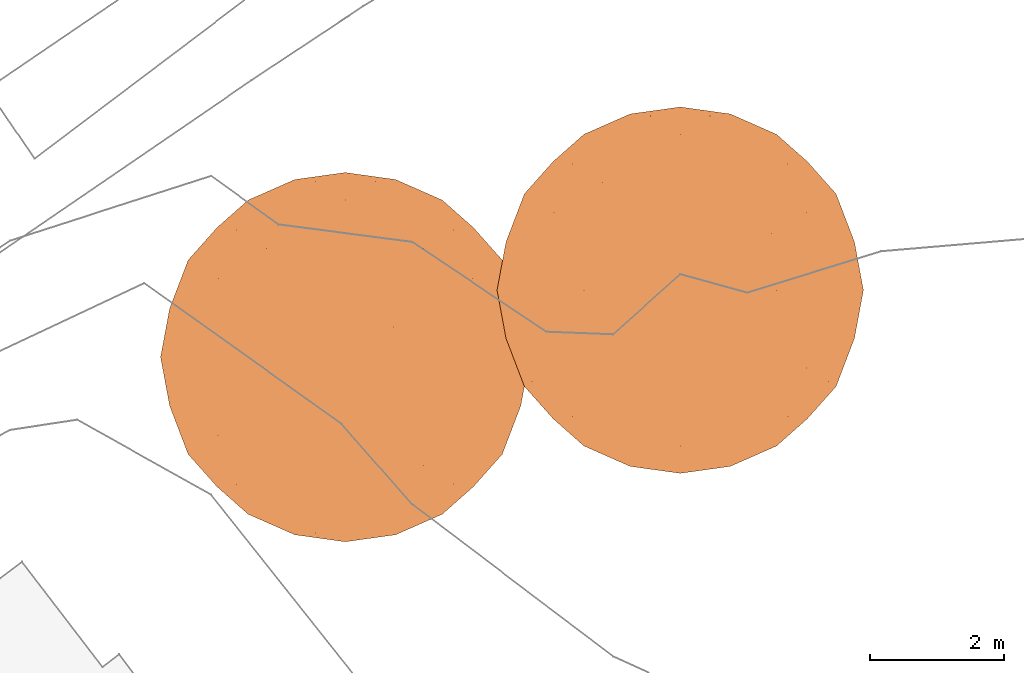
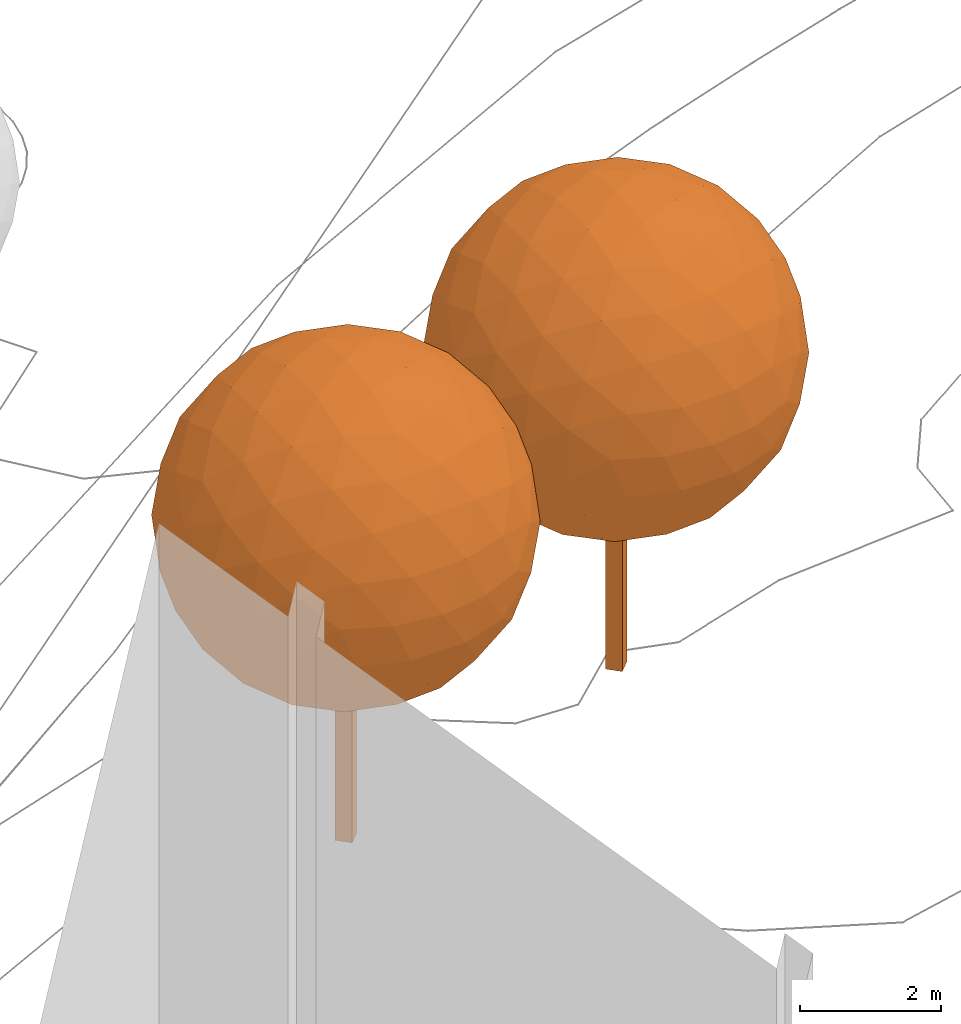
# Not in any storey, part 381 of 494: 2 proxies.
"""IFC2X3 model written with IfcOpenShell, lengths in metres."""

from ifc_helpers import new_model, si_unit, frame, origin_with_axes, place, context, subcontext, project, faceted_brep, element, save


model = new_model("IFC2X3")

# Units and contexts
model_context = context("Model", 3, precision=1e-05, world=origin_with_axes())
body_context = subcontext(model_context, "Body", "Model", "MODEL_VIEW")
ifc_project = project(units=[si_unit("AREAUNIT", "SQUARE_METRE"), si_unit("LENGTHUNIT", "METRE")], contexts=[model_context])

# Proxies
proxy_1_placement = place(None, frame((391.6777320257, 220.1707364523, 507.3218987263), z_axis=(0.0, 0.0, 1.0), x_axis=(1.0, 0.0, 0.0)))
element("IfcBuildingElementProxy", 1, at=proxy_1_placement, Name="Tree TR1 CD55", ObjectType="NOTDEFINED", context=body_context, shape_type="Brep", body=[
    faceted_brep([(0.0, 0.1754369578, 0.0), (0.1754369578, 0.0, 0.0), (0.0, -0.1754369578, 0.0), (-0.1754369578, 0.0, 0.0), (0.0, -0.1754369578, 5.5115145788), (0.1754369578, 0.0, 5.5115145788), (0.0, 0.1754369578, 5.5115145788), (-0.1754369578, 0.0, 5.5115145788)], [[[0, 1, 2]], [[2, 3, 0]], [[4, 5, 6]], [[6, 7, 4]], [[4, 7, 2]], [[2, 7, 3]], [[7, 6, 3]], [[3, 6, 0]], [[5, 4, 1]], [[1, 4, 2]], [[6, 5, 0]], [[0, 5, 1]]]),
    faceted_brep([(-1.4487873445, 2.3441871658, 5.5115145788), (-1.9118906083, 1.9346696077, 5.9541499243), (-1.1956915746, 2.3773049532, 6.2277136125), (-2.2294544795, 1.3778786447, 6.3630904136), (-1.6197934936, 1.8964872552, 6.6836081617), (-0.8515758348, 2.2294544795, 6.8893932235), (-2.3773049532, 0.7161990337, 6.7072061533), (-1.8964872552, 1.1720935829, 7.1313080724), (-2.3441871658, 0.0, 6.9603019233), (-1.9346696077, 0.4426353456, 7.4234051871), (-1.3778786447, 0.8515758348, 7.7409690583), (-1.1720935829, 1.6197934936, 7.408001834), (-0.4426353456, 1.9118906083, 7.4461841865), (-0.7161990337, 1.1956915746, 7.888819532), (0.0, 1.4487873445, 7.8557017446), (-0.753056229, 2.6508686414, 5.5115145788), (-0.4476999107, 2.6208809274, 6.235908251), (0.0, 2.7557572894, 5.5115145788), (0.0, 2.3441871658, 6.9603019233), (0.4426353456, 1.9118906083, 7.4461841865), (0.8515758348, 2.2294544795, 6.8893932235), (0.4476999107, 2.6208809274, 6.235908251), (0.753056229, 2.6508686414, 5.5115145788), (1.1956915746, 2.3773049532, 6.2277136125), (1.4487873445, 2.3441871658, 5.5115145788), (-1.1956915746, 2.3773049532, 4.7953155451), (-0.4476999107, 2.6208809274, 4.7871209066), (-0.8515758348, 2.2294544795, 4.1336359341), (0.4476999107, 2.6208809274, 4.7871209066), (1.1956915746, 2.3773049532, 4.7953155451), (0.8515758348, 2.2294544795, 4.1336359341), (0.0, 2.3441871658, 4.0627272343), (-0.4426353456, 1.9118906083, 3.5768449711), (0.4426353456, 1.9118906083, 3.5768449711), (0.0, 1.4487873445, 3.1673274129), (-1.9118906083, 1.9346696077, 5.0688792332), (-1.6197934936, 1.8964872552, 4.3394209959), (-2.2294544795, 1.3778786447, 4.659938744), (-1.1720935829, 1.6197934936, 3.6150273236), (-0.7161990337, 1.1956915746, 3.1342096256), (-1.3778786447, 0.8515758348, 3.2820600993), (-1.8964872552, 1.1720935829, 3.8917210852), (-2.3773049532, 0.7161990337, 4.3158230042), (-1.9346696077, 0.4426353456, 3.5996239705), (-2.3441871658, 0.0, 4.0627272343), (-2.3441871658, 1.4487873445, 5.5115145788), (-2.6208809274, 0.7243936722, 5.0638146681), (-2.6508686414, 0.0, 4.7584583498), (-2.7557572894, 0.0, 5.5115145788), (-2.6208809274, 0.7243936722, 5.9592144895), (-2.6508686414, 0.0, 6.2645708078), (1.9118906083, 1.9346696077, 5.9541499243), (1.6197934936, 1.8964872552, 6.6836081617), (2.2294544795, 1.3778786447, 6.3630904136), (1.1720935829, 1.6197934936, 7.408001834), (0.7161990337, 1.1956915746, 7.888819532), (1.3778786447, 0.8515758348, 7.7409690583), (1.8964872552, 1.1720935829, 7.1313080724), (2.3773049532, 0.7161990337, 6.7072061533), (1.9346696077, 0.4426353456, 7.4234051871), (2.3441871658, 0.0, 6.9603019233), (0.0, 0.753056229, 8.1623832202), (-0.7243936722, 0.4476999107, 8.1323955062), (0.0, 0.0, 8.2672718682), (-1.4487873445, 0.0, 7.8557017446), (-1.9346696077, -0.4426353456, 7.4234051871), (-1.3778786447, -0.8515758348, 7.7409690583), (-0.7243936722, -0.4476999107, 8.1323955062), (0.0, -0.753056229, 8.1623832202), (-0.7161990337, -1.1956915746, 7.888819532), (0.0, -1.4487873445, 7.8557017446), (-2.3773049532, -0.7161990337, 6.7072061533), (-2.6208809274, -0.7243936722, 5.9592144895), (-2.2294544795, -1.3778786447, 6.3630904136), (-2.6208809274, -0.7243936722, 5.0638146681), (-2.3773049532, -0.7161990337, 4.3158230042), (-2.2294544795, -1.3778786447, 4.659938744), (-2.3441871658, -1.4487873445, 5.5115145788), (-1.9118906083, -1.9346696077, 5.9541499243), (-1.9118906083, -1.9346696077, 5.0688792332), (-1.4487873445, -2.3441871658, 5.5115145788), (-1.9346696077, -0.4426353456, 3.5996239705), (-1.4487873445, 0.0, 3.1673274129), (-1.3778786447, -0.8515758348, 3.2820600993), (-0.7243936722, 0.4476999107, 2.8906336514), (0.0, 0.753056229, 2.8606459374), (0.0, 0.0, 2.7557572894), (-0.7243936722, -0.4476999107, 2.8906336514), (-0.7161990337, -1.1956915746, 3.1342096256), (0.0, -0.753056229, 2.8606459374), (0.0, -1.4487873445, 3.1673274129), (0.7161990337, 1.1956915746, 3.1342096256), (1.1720935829, 1.6197934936, 3.6150273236), (1.3778786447, 0.8515758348, 3.2820600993), (1.6197934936, 1.8964872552, 4.3394209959), (1.9118906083, 1.9346696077, 5.0688792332), (2.2294544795, 1.3778786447, 4.659938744), (1.8964872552, 1.1720935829, 3.8917210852), (1.9346696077, 0.4426353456, 3.5996239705), (2.3773049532, 0.7161990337, 4.3158230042), (2.3441871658, 0.0, 4.0627272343), (1.4487873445, -2.3441871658, 5.5115145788), (1.9118906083, -1.9346696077, 5.9541499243), (1.1956915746, -2.3773049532, 6.2277136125), (2.2294544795, -1.3778786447, 6.3630904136), (1.6197934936, -1.8964872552, 6.6836081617), (0.8515758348, -2.2294544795, 6.8893932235), (2.3773049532, -0.7161990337, 6.7072061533), (1.8964872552, -1.1720935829, 7.1313080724), (1.9346696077, -0.4426353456, 7.4234051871), (1.3778786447, -0.8515758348, 7.7409690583), (1.1720935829, -1.6197934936, 7.408001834), (0.4426353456, -1.9118906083, 7.4461841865), (0.7161990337, -1.1956915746, 7.888819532), (0.753056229, -2.6508686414, 5.5115145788), (0.4476999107, -2.6208809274, 6.235908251), (0.0, -2.7557572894, 5.5115145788), (0.0, -2.3441871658, 6.9603019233), (-0.4426353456, -1.9118906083, 7.4461841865), (-0.8515758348, -2.2294544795, 6.8893932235), (-0.4476999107, -2.6208809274, 6.235908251), (-0.753056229, -2.6508686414, 5.5115145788), (-1.1956915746, -2.3773049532, 6.2277136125), (1.1956915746, -2.3773049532, 4.7953155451), (0.4476999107, -2.6208809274, 4.7871209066), (0.8515758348, -2.2294544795, 4.1336359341), (-0.4476999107, -2.6208809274, 4.7871209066), (-1.1956915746, -2.3773049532, 4.7953155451), (-0.8515758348, -2.2294544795, 4.1336359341), (0.0, -2.3441871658, 4.0627272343), (0.4426353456, -1.9118906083, 3.5768449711), (-0.4426353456, -1.9118906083, 3.5768449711), (1.9118906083, -1.9346696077, 5.0688792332), (1.6197934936, -1.8964872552, 4.3394209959), (2.2294544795, -1.3778786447, 4.659938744), (1.1720935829, -1.6197934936, 3.6150273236), (0.7161990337, -1.1956915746, 3.1342096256), (1.3778786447, -0.8515758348, 3.2820600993), (1.8964872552, -1.1720935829, 3.8917210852), (2.3773049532, -0.7161990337, 4.3158230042), (1.9346696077, -0.4426353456, 3.5996239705), (2.3441871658, -1.4487873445, 5.5115145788), (2.6208809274, -0.7243936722, 5.0638146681), (2.6508686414, 0.0, 4.7584583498), (2.7557572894, 0.0, 5.5115145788), (2.6208809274, -0.7243936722, 5.9592144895), (2.6508686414, 0.0, 6.2645708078), (0.7243936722, -0.4476999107, 8.1323955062), (1.4487873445, 0.0, 7.8557017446), (0.7243936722, 0.4476999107, 8.1323955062), (-1.6197934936, -1.8964872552, 6.6836081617), (-1.1720935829, -1.6197934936, 7.408001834), (-1.8964872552, -1.1720935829, 7.1313080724), (-1.1720935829, -1.6197934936, 3.6150273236), (-1.6197934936, -1.8964872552, 4.3394209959), (-1.8964872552, -1.1720935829, 3.8917210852), (1.4487873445, 0.0, 3.1673274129), (0.7243936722, -0.4476999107, 2.8906336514), (0.7243936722, 0.4476999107, 2.8906336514), (2.6208809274, 0.7243936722, 5.9592144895), (2.6208809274, 0.7243936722, 5.0638146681), (2.3441871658, 1.4487873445, 5.5115145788)], [[[0, 1, 2]], [[1, 3, 4]], [[2, 4, 5]], [[1, 4, 2]], [[3, 6, 7]], [[6, 8, 9]], [[7, 9, 10]], [[6, 9, 7]], [[5, 11, 12]], [[11, 10, 13]], [[12, 13, 14]], [[11, 13, 12]], [[3, 7, 4]], [[7, 10, 11]], [[4, 11, 5]], [[7, 11, 4]], [[0, 2, 15]], [[2, 5, 16]], [[15, 16, 17]], [[2, 16, 15]], [[5, 12, 18]], [[12, 14, 19]], [[18, 19, 20]], [[12, 19, 18]], [[17, 21, 22]], [[21, 20, 23]], [[22, 23, 24]], [[21, 23, 22]], [[5, 18, 16]], [[18, 20, 21]], [[16, 21, 17]], [[18, 21, 16]], [[0, 15, 25]], [[15, 17, 26]], [[25, 26, 27]], [[15, 26, 25]], [[17, 22, 28]], [[22, 24, 29]], [[28, 29, 30]], [[22, 29, 28]], [[27, 31, 32]], [[31, 30, 33]], [[32, 33, 34]], [[31, 33, 32]], [[17, 28, 26]], [[28, 30, 31]], [[26, 31, 27]], [[28, 31, 26]], [[0, 25, 35]], [[25, 27, 36]], [[35, 36, 37]], [[25, 36, 35]], [[27, 32, 38]], [[32, 34, 39]], [[38, 39, 40]], [[32, 39, 38]], [[37, 41, 42]], [[41, 40, 43]], [[42, 43, 44]], [[41, 43, 42]], [[27, 38, 36]], [[38, 40, 41]], [[36, 41, 37]], [[38, 41, 36]], [[0, 35, 1]], [[35, 37, 45]], [[1, 45, 3]], [[35, 45, 1]], [[37, 42, 46]], [[42, 44, 47]], [[46, 47, 48]], [[42, 47, 46]], [[3, 49, 6]], [[49, 48, 50]], [[6, 50, 8]], [[49, 50, 6]], [[37, 46, 45]], [[46, 48, 49]], [[45, 49, 3]], [[46, 49, 45]], [[24, 23, 51]], [[23, 20, 52]], [[51, 52, 53]], [[23, 52, 51]], [[20, 19, 54]], [[19, 14, 55]], [[54, 55, 56]], [[19, 55, 54]], [[53, 57, 58]], [[57, 56, 59]], [[58, 59, 60]], [[57, 59, 58]], [[20, 54, 52]], [[54, 56, 57]], [[52, 57, 53]], [[54, 57, 52]], [[14, 13, 61]], [[13, 10, 62]], [[61, 62, 63]], [[13, 62, 61]], [[10, 9, 64]], [[9, 8, 65]], [[64, 65, 66]], [[9, 65, 64]], [[63, 67, 68]], [[67, 66, 69]], [[68, 69, 70]], [[67, 69, 68]], [[10, 64, 62]], [[64, 66, 67]], [[62, 67, 63]], [[64, 67, 62]], [[8, 50, 71]], [[50, 48, 72]], [[71, 72, 73]], [[50, 72, 71]], [[48, 47, 74]], [[47, 44, 75]], [[74, 75, 76]], [[47, 75, 74]], [[73, 77, 78]], [[77, 76, 79]], [[78, 79, 80]], [[77, 79, 78]], [[48, 74, 72]], [[74, 76, 77]], [[72, 77, 73]], [[74, 77, 72]], [[44, 43, 81]], [[43, 40, 82]], [[81, 82, 83]], [[43, 82, 81]], [[40, 39, 84]], [[39, 34, 85]], [[84, 85, 86]], [[39, 85, 84]], [[83, 87, 88]], [[87, 86, 89]], [[88, 89, 90]], [[87, 89, 88]], [[40, 84, 82]], [[84, 86, 87]], [[82, 87, 83]], [[84, 87, 82]], [[34, 33, 91]], [[33, 30, 92]], [[91, 92, 93]], [[33, 92, 91]], [[30, 29, 94]], [[29, 24, 95]], [[94, 95, 96]], [[29, 95, 94]], [[93, 97, 98]], [[97, 96, 99]], [[98, 99, 100]], [[97, 99, 98]], [[30, 94, 92]], [[94, 96, 97]], [[92, 97, 93]], [[94, 97, 92]], [[101, 102, 103]], [[102, 104, 105]], [[103, 105, 106]], [[102, 105, 103]], [[104, 107, 108]], [[107, 60, 109]], [[108, 109, 110]], [[107, 109, 108]], [[106, 111, 112]], [[111, 110, 113]], [[112, 113, 70]], [[111, 113, 112]], [[104, 108, 105]], [[108, 110, 111]], [[105, 111, 106]], [[108, 111, 105]], [[101, 103, 114]], [[103, 106, 115]], [[114, 115, 116]], [[103, 115, 114]], [[106, 112, 117]], [[112, 70, 118]], [[117, 118, 119]], [[112, 118, 117]], [[116, 120, 121]], [[120, 119, 122]], [[121, 122, 80]], [[120, 122, 121]], [[106, 117, 115]], [[117, 119, 120]], [[115, 120, 116]], [[117, 120, 115]], [[101, 114, 123]], [[114, 116, 124]], [[123, 124, 125]], [[114, 124, 123]], [[116, 121, 126]], [[121, 80, 127]], [[126, 127, 128]], [[121, 127, 126]], [[125, 129, 130]], [[129, 128, 131]], [[130, 131, 90]], [[129, 131, 130]], [[116, 126, 124]], [[126, 128, 129]], [[124, 129, 125]], [[126, 129, 124]], [[101, 123, 132]], [[123, 125, 133]], [[132, 133, 134]], [[123, 133, 132]], [[125, 130, 135]], [[130, 90, 136]], [[135, 136, 137]], [[130, 136, 135]], [[134, 138, 139]], [[138, 137, 140]], [[139, 140, 100]], [[138, 140, 139]], [[125, 135, 133]], [[135, 137, 138]], [[133, 138, 134]], [[135, 138, 133]], [[101, 132, 102]], [[132, 134, 141]], [[102, 141, 104]], [[132, 141, 102]], [[134, 139, 142]], [[139, 100, 143]], [[142, 143, 144]], [[139, 143, 142]], [[104, 145, 107]], [[145, 144, 146]], [[107, 146, 60]], [[145, 146, 107]], [[134, 142, 141]], [[142, 144, 145]], [[141, 145, 104]], [[142, 145, 141]], [[70, 113, 68]], [[113, 110, 147]], [[68, 147, 63]], [[113, 147, 68]], [[110, 109, 148]], [[109, 60, 59]], [[148, 59, 56]], [[109, 59, 148]], [[63, 149, 61]], [[149, 56, 55]], [[61, 55, 14]], [[149, 55, 61]], [[110, 148, 147]], [[148, 56, 149]], [[147, 149, 63]], [[148, 149, 147]], [[80, 122, 78]], [[122, 119, 150]], [[78, 150, 73]], [[122, 150, 78]], [[119, 118, 151]], [[118, 70, 69]], [[151, 69, 66]], [[118, 69, 151]], [[73, 152, 71]], [[152, 66, 65]], [[71, 65, 8]], [[152, 65, 71]], [[119, 151, 150]], [[151, 66, 152]], [[150, 152, 73]], [[151, 152, 150]], [[90, 131, 88]], [[131, 128, 153]], [[88, 153, 83]], [[131, 153, 88]], [[128, 127, 154]], [[127, 80, 79]], [[154, 79, 76]], [[127, 79, 154]], [[83, 155, 81]], [[155, 76, 75]], [[81, 75, 44]], [[155, 75, 81]], [[128, 154, 153]], [[154, 76, 155]], [[153, 155, 83]], [[154, 155, 153]], [[100, 140, 98]], [[140, 137, 156]], [[98, 156, 93]], [[140, 156, 98]], [[137, 136, 157]], [[136, 90, 89]], [[157, 89, 86]], [[136, 89, 157]], [[93, 158, 91]], [[158, 86, 85]], [[91, 85, 34]], [[158, 85, 91]], [[137, 157, 156]], [[157, 86, 158]], [[156, 158, 93]], [[157, 158, 156]], [[60, 146, 58]], [[146, 144, 159]], [[58, 159, 53]], [[146, 159, 58]], [[144, 143, 160]], [[143, 100, 99]], [[160, 99, 96]], [[143, 99, 160]], [[53, 161, 51]], [[161, 96, 95]], [[51, 95, 24]], [[161, 95, 51]], [[144, 160, 159]], [[160, 96, 161]], [[159, 161, 53]], [[160, 161, 159]]]),
])
proxy_2_placement = place(None, frame((396.6777320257, 221.1707364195, 507.9262796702), z_axis=(0.0, 0.0, 1.0), x_axis=(1.0, 0.0, 0.0)))
element("IfcBuildingElementProxy", 2, at=proxy_2_placement, Name="Tree TR1 CD54", ObjectType="NOTDEFINED", context=body_context, shape_type="Brep", body=[
    faceted_brep([(0.0, 0.1740604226, 0.0), (0.1740604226, 0.0, 0.0), (0.0, -0.1740604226, 0.0), (-0.1740604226, 0.0, 0.0), (0.0, -0.1740604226, 5.4682694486), (0.1740604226, 0.0, 5.4682694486), (0.0, 0.1740604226, 5.4682694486), (-0.1740604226, 0.0, 5.4682694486)], [[[0, 1, 2]], [[2, 3, 0]], [[4, 5, 6]], [[6, 7, 4]], [[4, 7, 2]], [[2, 7, 3]], [[7, 6, 3]], [[3, 6, 0]], [[5, 4, 1]], [[1, 4, 2]], [[6, 5, 0]], [[0, 5, 1]]]),
    faceted_brep([(-1.4374196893, 2.3257939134, 5.4682694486), (-1.8968892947, 1.9194895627, 5.9074317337), (-1.1863097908, 2.3586518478, 6.1788489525), (-2.2119614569, 1.3670673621, 6.3131635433), (-1.6070840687, 1.8816068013, 6.6311664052), (-0.8448940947, 2.2119614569, 6.8353368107), (-2.3586518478, 0.7105795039, 6.6545792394), (-1.8816068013, 1.1628969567, 7.0753535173), (-2.3257939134, 0.0, 6.9056891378), (-1.9194895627, 0.4391622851, 7.3651587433), (-1.3670673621, 0.8448940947, 7.6802309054), (-1.1628969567, 1.6070840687, 7.3498762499), (-0.4391622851, 1.8968892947, 7.3877590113), (-0.7105795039, 1.1863097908, 7.8269212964), (0.0, 1.4374196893, 7.7940633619), (-0.7471475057, 2.6300690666, 5.4682694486), (-0.444187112, 2.600316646, 6.1869792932), (0.0, 2.7341347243, 5.4682694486), (0.0, 2.3257939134, 6.9056891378), (0.4391622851, 1.8968892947, 7.3877590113), (0.8448940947, 2.2119614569, 6.8353368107), (0.444187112, 2.600316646, 6.1869792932), (0.7471475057, 2.6300690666, 5.4682694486), (1.1863097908, 2.3586518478, 6.1788489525), (1.4374196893, 2.3257939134, 5.4682694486), (-1.1863097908, 2.3586518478, 4.7576899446), (-0.444187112, 2.600316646, 4.7495596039), (-0.8448940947, 2.2119614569, 4.1012020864), (0.444187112, 2.600316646, 4.7495596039), (1.1863097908, 2.3586518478, 4.7576899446), (0.8448940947, 2.2119614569, 4.1012020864), (0.0, 2.3257939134, 4.0308497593), (-0.4391622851, 1.8968892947, 3.5487798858), (0.4391622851, 1.8968892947, 3.5487798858), (0.0, 1.4374196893, 3.1424755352), (-1.8968892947, 1.9194895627, 5.0291071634), (-1.6070840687, 1.8816068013, 4.3053724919), (-2.2119614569, 1.3670673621, 4.6233753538), (-1.1628969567, 1.6070840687, 3.5866626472), (-0.7105795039, 1.1863097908, 3.1096176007), (-1.3670673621, 0.8448940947, 3.2563079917), (-1.8816068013, 1.1628969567, 3.8611853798), (-2.3586518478, 0.7105795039, 4.2819596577), (-1.9194895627, 0.4391622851, 3.5713801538), (-2.3257939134, 0.0, 4.0308497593), (-2.3257939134, 1.4374196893, 5.4682694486), (-2.600316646, 0.7187098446, 5.0240823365), (-2.6300690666, 0.0, 4.7211219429), (-2.7341347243, 0.0, 5.4682694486), (-2.600316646, 0.7187098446, 5.9124565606), (-2.6300690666, 0.0, 6.2154169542), (1.8968892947, 1.9194895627, 5.9074317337), (1.6070840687, 1.8816068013, 6.6311664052), (2.2119614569, 1.3670673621, 6.3131635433), (1.1628969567, 1.6070840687, 7.3498762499), (0.7105795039, 1.1863097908, 7.8269212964), (1.3670673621, 0.8448940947, 7.6802309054), (1.8816068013, 1.1628969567, 7.0753535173), (2.3586518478, 0.7105795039, 6.6545792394), (1.9194895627, 0.4391622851, 7.3651587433), (2.3257939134, 0.0, 6.9056891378), (0.0, 0.7471475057, 8.0983385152), (-0.7187098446, 0.444187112, 8.0685860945), (0.0, 0.0, 8.2024041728), (-1.4374196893, 0.0, 7.7940633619), (-1.9194895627, -0.4391622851, 7.3651587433), (-1.3670673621, -0.8448940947, 7.6802309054), (-0.7187098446, -0.444187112, 8.0685860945), (0.0, -0.7471475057, 8.0983385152), (-0.7105795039, -1.1863097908, 7.8269212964), (0.0, -1.4374196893, 7.7940633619), (-2.3586518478, -0.7105795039, 6.6545792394), (-2.600316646, -0.7187098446, 5.9124565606), (-2.2119614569, -1.3670673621, 6.3131635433), (-2.600316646, -0.7187098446, 5.0240823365), (-2.3586518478, -0.7105795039, 4.2819596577), (-2.2119614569, -1.3670673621, 4.6233753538), (-2.3257939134, -1.4374196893, 5.4682694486), (-1.8968892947, -1.9194895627, 5.9074317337), (-1.8968892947, -1.9194895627, 5.0291071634), (-1.4374196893, -2.3257939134, 5.4682694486), (-1.9194895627, -0.4391622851, 3.5713801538), (-1.4374196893, 0.0, 3.1424755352), (-1.3670673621, -0.8448940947, 3.2563079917), (-0.7187098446, 0.444187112, 2.8679528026), (0.0, 0.7471475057, 2.8382003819), (0.0, 0.0, 2.7341347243), (-0.7187098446, -0.444187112, 2.8679528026), (-0.7105795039, -1.1863097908, 3.1096176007), (0.0, -0.7471475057, 2.8382003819), (0.0, -1.4374196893, 3.1424755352), (0.7105795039, 1.1863097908, 3.1096176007), (1.1628969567, 1.6070840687, 3.5866626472), (1.3670673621, 0.8448940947, 3.2563079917), (1.6070840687, 1.8816068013, 4.3053724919), (1.8968892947, 1.9194895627, 5.0291071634), (2.2119614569, 1.3670673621, 4.6233753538), (1.8816068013, 1.1628969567, 3.8611853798), (1.9194895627, 0.4391622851, 3.5713801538), (2.3586518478, 0.7105795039, 4.2819596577), (2.3257939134, 0.0, 4.0308497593), (1.4374196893, -2.3257939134, 5.4682694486), (1.8968892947, -1.9194895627, 5.9074317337), (1.1863097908, -2.3586518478, 6.1788489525), (2.2119614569, -1.3670673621, 6.3131635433), (1.6070840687, -1.8816068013, 6.6311664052), (0.8448940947, -2.2119614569, 6.8353368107), (2.3586518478, -0.7105795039, 6.6545792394), (1.8816068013, -1.1628969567, 7.0753535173), (1.9194895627, -0.4391622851, 7.3651587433), (1.3670673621, -0.8448940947, 7.6802309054), (1.1628969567, -1.6070840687, 7.3498762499), (0.4391622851, -1.8968892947, 7.3877590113), (0.7105795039, -1.1863097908, 7.8269212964), (0.7471475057, -2.6300690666, 5.4682694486), (0.444187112, -2.600316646, 6.1869792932), (0.0, -2.7341347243, 5.4682694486), (0.0, -2.3257939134, 6.9056891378), (-0.4391622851, -1.8968892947, 7.3877590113), (-0.8448940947, -2.2119614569, 6.8353368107), (-0.444187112, -2.600316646, 6.1869792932), (-0.7471475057, -2.6300690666, 5.4682694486), (-1.1863097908, -2.3586518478, 6.1788489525), (1.1863097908, -2.3586518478, 4.7576899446), (0.444187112, -2.600316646, 4.7495596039), (0.8448940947, -2.2119614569, 4.1012020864), (-0.444187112, -2.600316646, 4.7495596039), (-1.1863097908, -2.3586518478, 4.7576899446), (-0.8448940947, -2.2119614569, 4.1012020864), (0.0, -2.3257939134, 4.0308497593), (0.4391622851, -1.8968892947, 3.5487798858), (-0.4391622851, -1.8968892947, 3.5487798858), (1.8968892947, -1.9194895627, 5.0291071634), (1.6070840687, -1.8816068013, 4.3053724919), (2.2119614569, -1.3670673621, 4.6233753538), (1.1628969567, -1.6070840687, 3.5866626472), (0.7105795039, -1.1863097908, 3.1096176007), (1.3670673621, -0.8448940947, 3.2563079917), (1.8816068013, -1.1628969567, 3.8611853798), (2.3586518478, -0.7105795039, 4.2819596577), (1.9194895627, -0.4391622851, 3.5713801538), (2.3257939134, -1.4374196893, 5.4682694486), (2.600316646, -0.7187098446, 5.0240823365), (2.6300690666, 0.0, 4.7211219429), (2.7341347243, 0.0, 5.4682694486), (2.600316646, -0.7187098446, 5.9124565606), (2.6300690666, 0.0, 6.2154169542), (0.7187098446, -0.444187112, 8.0685860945), (1.4374196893, 0.0, 7.7940633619), (0.7187098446, 0.444187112, 8.0685860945), (-1.6070840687, -1.8816068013, 6.6311664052), (-1.1628969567, -1.6070840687, 7.3498762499), (-1.8816068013, -1.1628969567, 7.0753535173), (-1.1628969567, -1.6070840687, 3.5866626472), (-1.6070840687, -1.8816068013, 4.3053724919), (-1.8816068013, -1.1628969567, 3.8611853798), (1.4374196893, 0.0, 3.1424755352), (0.7187098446, -0.444187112, 2.8679528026), (0.7187098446, 0.444187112, 2.8679528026), (2.600316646, 0.7187098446, 5.9124565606), (2.600316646, 0.7187098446, 5.0240823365), (2.3257939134, 1.4374196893, 5.4682694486)], [[[0, 1, 2]], [[1, 3, 4]], [[2, 4, 5]], [[1, 4, 2]], [[3, 6, 7]], [[6, 8, 9]], [[7, 9, 10]], [[6, 9, 7]], [[5, 11, 12]], [[11, 10, 13]], [[12, 13, 14]], [[11, 13, 12]], [[3, 7, 4]], [[7, 10, 11]], [[4, 11, 5]], [[7, 11, 4]], [[0, 2, 15]], [[2, 5, 16]], [[15, 16, 17]], [[2, 16, 15]], [[5, 12, 18]], [[12, 14, 19]], [[18, 19, 20]], [[12, 19, 18]], [[17, 21, 22]], [[21, 20, 23]], [[22, 23, 24]], [[21, 23, 22]], [[5, 18, 16]], [[18, 20, 21]], [[16, 21, 17]], [[18, 21, 16]], [[0, 15, 25]], [[15, 17, 26]], [[25, 26, 27]], [[15, 26, 25]], [[17, 22, 28]], [[22, 24, 29]], [[28, 29, 30]], [[22, 29, 28]], [[27, 31, 32]], [[31, 30, 33]], [[32, 33, 34]], [[31, 33, 32]], [[17, 28, 26]], [[28, 30, 31]], [[26, 31, 27]], [[28, 31, 26]], [[0, 25, 35]], [[25, 27, 36]], [[35, 36, 37]], [[25, 36, 35]], [[27, 32, 38]], [[32, 34, 39]], [[38, 39, 40]], [[32, 39, 38]], [[37, 41, 42]], [[41, 40, 43]], [[42, 43, 44]], [[41, 43, 42]], [[27, 38, 36]], [[38, 40, 41]], [[36, 41, 37]], [[38, 41, 36]], [[0, 35, 1]], [[35, 37, 45]], [[1, 45, 3]], [[35, 45, 1]], [[37, 42, 46]], [[42, 44, 47]], [[46, 47, 48]], [[42, 47, 46]], [[3, 49, 6]], [[49, 48, 50]], [[6, 50, 8]], [[49, 50, 6]], [[37, 46, 45]], [[46, 48, 49]], [[45, 49, 3]], [[46, 49, 45]], [[24, 23, 51]], [[23, 20, 52]], [[51, 52, 53]], [[23, 52, 51]], [[20, 19, 54]], [[19, 14, 55]], [[54, 55, 56]], [[19, 55, 54]], [[53, 57, 58]], [[57, 56, 59]], [[58, 59, 60]], [[57, 59, 58]], [[20, 54, 52]], [[54, 56, 57]], [[52, 57, 53]], [[54, 57, 52]], [[14, 13, 61]], [[13, 10, 62]], [[61, 62, 63]], [[13, 62, 61]], [[10, 9, 64]], [[9, 8, 65]], [[64, 65, 66]], [[9, 65, 64]], [[63, 67, 68]], [[67, 66, 69]], [[68, 69, 70]], [[67, 69, 68]], [[10, 64, 62]], [[64, 66, 67]], [[62, 67, 63]], [[64, 67, 62]], [[8, 50, 71]], [[50, 48, 72]], [[71, 72, 73]], [[50, 72, 71]], [[48, 47, 74]], [[47, 44, 75]], [[74, 75, 76]], [[47, 75, 74]], [[73, 77, 78]], [[77, 76, 79]], [[78, 79, 80]], [[77, 79, 78]], [[48, 74, 72]], [[74, 76, 77]], [[72, 77, 73]], [[74, 77, 72]], [[44, 43, 81]], [[43, 40, 82]], [[81, 82, 83]], [[43, 82, 81]], [[40, 39, 84]], [[39, 34, 85]], [[84, 85, 86]], [[39, 85, 84]], [[83, 87, 88]], [[87, 86, 89]], [[88, 89, 90]], [[87, 89, 88]], [[40, 84, 82]], [[84, 86, 87]], [[82, 87, 83]], [[84, 87, 82]], [[34, 33, 91]], [[33, 30, 92]], [[91, 92, 93]], [[33, 92, 91]], [[30, 29, 94]], [[29, 24, 95]], [[94, 95, 96]], [[29, 95, 94]], [[93, 97, 98]], [[97, 96, 99]], [[98, 99, 100]], [[97, 99, 98]], [[30, 94, 92]], [[94, 96, 97]], [[92, 97, 93]], [[94, 97, 92]], [[101, 102, 103]], [[102, 104, 105]], [[103, 105, 106]], [[102, 105, 103]], [[104, 107, 108]], [[107, 60, 109]], [[108, 109, 110]], [[107, 109, 108]], [[106, 111, 112]], [[111, 110, 113]], [[112, 113, 70]], [[111, 113, 112]], [[104, 108, 105]], [[108, 110, 111]], [[105, 111, 106]], [[108, 111, 105]], [[101, 103, 114]], [[103, 106, 115]], [[114, 115, 116]], [[103, 115, 114]], [[106, 112, 117]], [[112, 70, 118]], [[117, 118, 119]], [[112, 118, 117]], [[116, 120, 121]], [[120, 119, 122]], [[121, 122, 80]], [[120, 122, 121]], [[106, 117, 115]], [[117, 119, 120]], [[115, 120, 116]], [[117, 120, 115]], [[101, 114, 123]], [[114, 116, 124]], [[123, 124, 125]], [[114, 124, 123]], [[116, 121, 126]], [[121, 80, 127]], [[126, 127, 128]], [[121, 127, 126]], [[125, 129, 130]], [[129, 128, 131]], [[130, 131, 90]], [[129, 131, 130]], [[116, 126, 124]], [[126, 128, 129]], [[124, 129, 125]], [[126, 129, 124]], [[101, 123, 132]], [[123, 125, 133]], [[132, 133, 134]], [[123, 133, 132]], [[125, 130, 135]], [[130, 90, 136]], [[135, 136, 137]], [[130, 136, 135]], [[134, 138, 139]], [[138, 137, 140]], [[139, 140, 100]], [[138, 140, 139]], [[125, 135, 133]], [[135, 137, 138]], [[133, 138, 134]], [[135, 138, 133]], [[101, 132, 102]], [[132, 134, 141]], [[102, 141, 104]], [[132, 141, 102]], [[134, 139, 142]], [[139, 100, 143]], [[142, 143, 144]], [[139, 143, 142]], [[104, 145, 107]], [[145, 144, 146]], [[107, 146, 60]], [[145, 146, 107]], [[134, 142, 141]], [[142, 144, 145]], [[141, 145, 104]], [[142, 145, 141]], [[70, 113, 68]], [[113, 110, 147]], [[68, 147, 63]], [[113, 147, 68]], [[110, 109, 148]], [[109, 60, 59]], [[148, 59, 56]], [[109, 59, 148]], [[63, 149, 61]], [[149, 56, 55]], [[61, 55, 14]], [[149, 55, 61]], [[110, 148, 147]], [[148, 56, 149]], [[147, 149, 63]], [[148, 149, 147]], [[80, 122, 78]], [[122, 119, 150]], [[78, 150, 73]], [[122, 150, 78]], [[119, 118, 151]], [[118, 70, 69]], [[151, 69, 66]], [[118, 69, 151]], [[73, 152, 71]], [[152, 66, 65]], [[71, 65, 8]], [[152, 65, 71]], [[119, 151, 150]], [[151, 66, 152]], [[150, 152, 73]], [[151, 152, 150]], [[90, 131, 88]], [[131, 128, 153]], [[88, 153, 83]], [[131, 153, 88]], [[128, 127, 154]], [[127, 80, 79]], [[154, 79, 76]], [[127, 79, 154]], [[83, 155, 81]], [[155, 76, 75]], [[81, 75, 44]], [[155, 75, 81]], [[128, 154, 153]], [[154, 76, 155]], [[153, 155, 83]], [[154, 155, 153]], [[100, 140, 98]], [[140, 137, 156]], [[98, 156, 93]], [[140, 156, 98]], [[137, 136, 157]], [[136, 90, 89]], [[157, 89, 86]], [[136, 89, 157]], [[93, 158, 91]], [[158, 86, 85]], [[91, 85, 34]], [[158, 85, 91]], [[137, 157, 156]], [[157, 86, 158]], [[156, 158, 93]], [[157, 158, 156]], [[60, 146, 58]], [[146, 144, 159]], [[58, 159, 53]], [[146, 159, 58]], [[144, 143, 160]], [[143, 100, 99]], [[160, 99, 96]], [[143, 99, 160]], [[53, 161, 51]], [[161, 96, 95]], [[51, 95, 24]], [[161, 95, 51]], [[144, 160, 159]], [[160, 96, 161]], [[159, 161, 53]], [[160, 161, 159]]]),
])

save(model, "model.ifc")
